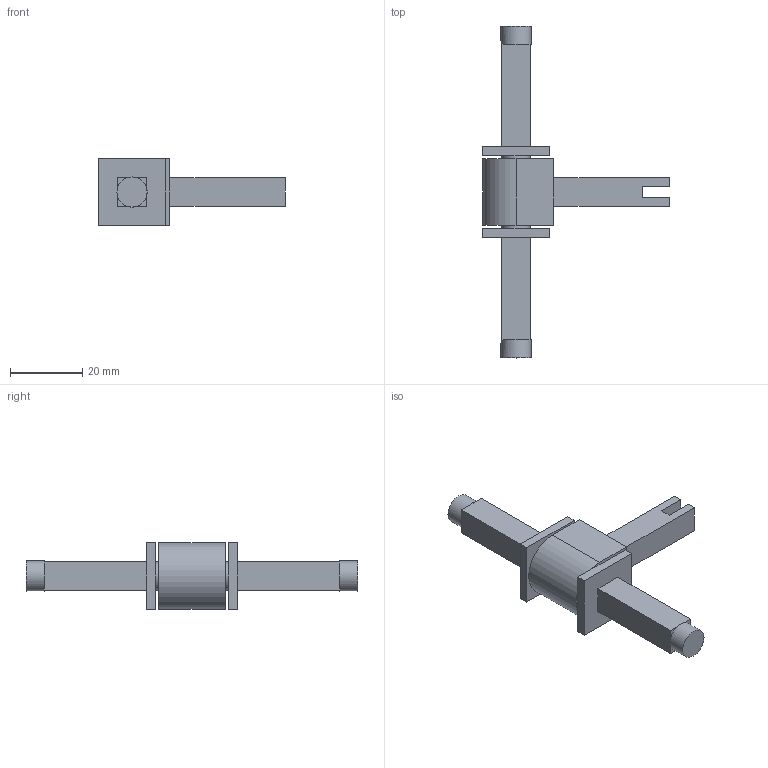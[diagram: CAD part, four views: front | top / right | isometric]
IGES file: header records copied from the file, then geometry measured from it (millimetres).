
Start section: Data from Parasolid IGES Translator 20.0.26, Copyright(c) 2006 Siemens P LM Software. All Rights Reserved.
Global section: file name: 9303948.igs; native system: By Siemens PLM Incorporated; preprocessor: XPlus GENERIC/IGES 20.0.26; author: Noname; organization: Noname; date: 20210824.170832; units: millimetre
Bounding box: 51.75 x 92 x 18.5 mm (x, y, z)
Surface area: 7543 mm2 (no closed solid volume)
Topology: 0 solids, 0 shells, 57 faces, 256 edges, 252 vertices
Faces by surface type: extrusion 52, revolution 5
